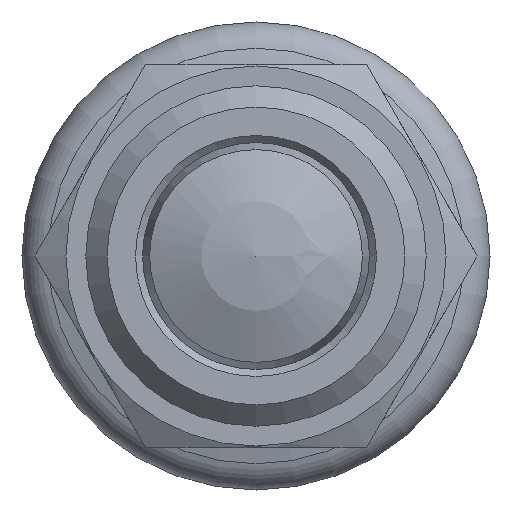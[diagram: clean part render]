
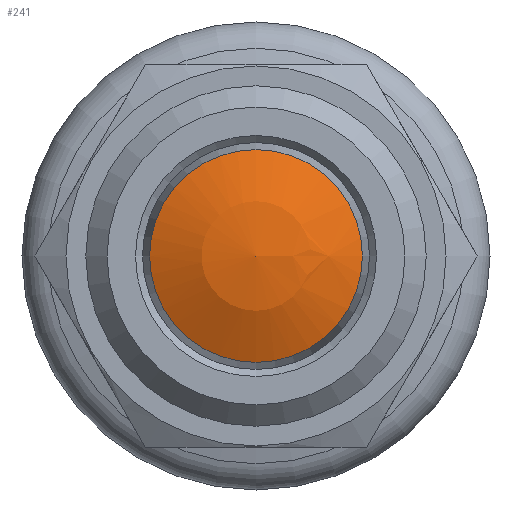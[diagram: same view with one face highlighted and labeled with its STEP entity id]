
A CAD part, front view. The second image highlights one B-rep face of the part: STEP entity #241.
In plain terms, the highlighted spherical face has radius 16 mm.
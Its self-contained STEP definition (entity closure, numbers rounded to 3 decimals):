
#241 = ADVANCED_FACE( '', ( #343, #344 ), #345, .T. );
#343 = FACE_BOUND( '', #446, .T. );
#344 = FACE_OUTER_BOUND( '', #447, .T. );
#345 = SPHERICAL_SURFACE( '', #448, 16. );
#446 = VERTEX_LOOP( '', #646 );
#447 = EDGE_LOOP( '', ( #647 ) );
#448 = AXIS2_PLACEMENT_3D( '', #648, #649, #650 );
#646 = VERTEX_POINT( '', #698 );
#647 = ORIENTED_EDGE( '', *, *, #683, .T. );
#648 = CARTESIAN_POINT( '', ( 0., 16., 0. ) );
#649 = DIRECTION( '', ( 0., -1., 0. ) );
#650 = DIRECTION( '', ( 1., 0., 0. ) );
#683 = EDGE_CURVE( '', #757, #757, #758, .T. );
#698 = CARTESIAN_POINT( '', ( 0., 0., 0. ) );
#757 = VERTEX_POINT( '', #981 );
#758 = CIRCLE( '', #982, 7.501 );
#981 = CARTESIAN_POINT( '', ( 0., 1.867, -7.501 ) );
#982 = AXIS2_PLACEMENT_3D( '', #1057, #1058, #1059 );
#1057 = CARTESIAN_POINT( '', ( 0., 1.867, 0. ) );
#1058 = DIRECTION( '', ( 0., -1., 0. ) );
#1059 = DIRECTION( '', ( 0., 0., -1. ) );
